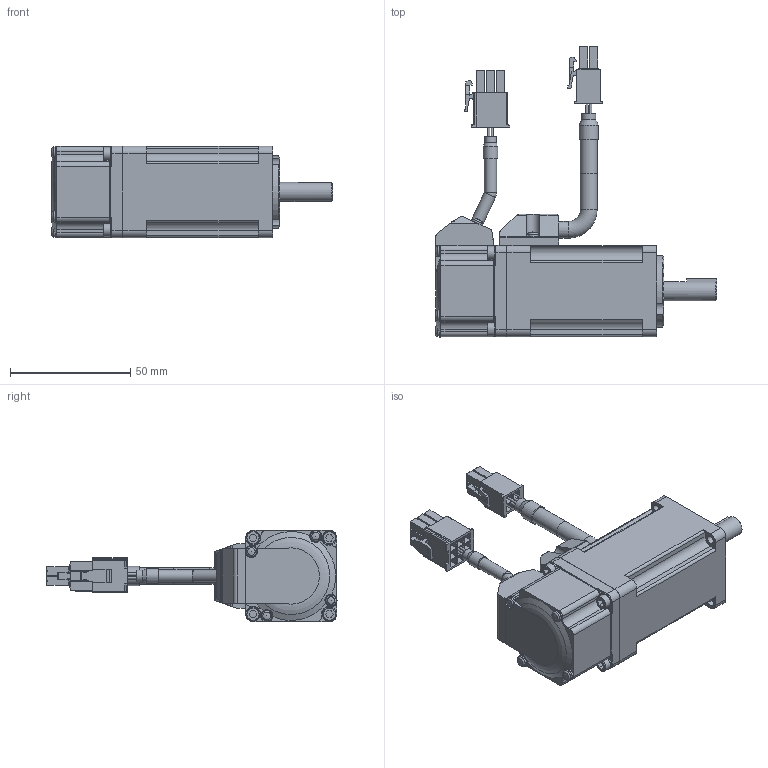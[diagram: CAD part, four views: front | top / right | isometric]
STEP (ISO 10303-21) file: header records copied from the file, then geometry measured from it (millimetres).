
FILE_DESCRIPTION( ( 'STEP AP203' ), '1' );
FILE_NAME( 'p:/temp/worker_26/temp/exporttempdir_3736_1033_JpBX4/format_0/MSMF012L1S2.stp', '2019-12-02T09:09:19', ( '' ), ( '' ), ' ', 'PARTsolutions', ' ' );
FILE_SCHEMA( ( 'CONFIG_CONTROL_DESIGN' ) );
Length unit declared in the file: millimetre
Products named in the file (8): MSMF012L1S2; _MSMF01NoWith key_b; _Cable Motor Bottom 02_CM2_MSMF; _Cable Motor Top 02_MSMF; _Motor Connector_2; _Cable Brake Top 02_CE02_MSMF; _Cable Brake Top 02_CE01_MSMF; _MHMF Connector 9 Pin_A6
Assembly tree (7 placements, depth 2):
  MSMF012L1S2
    _MSMF01NoWith key_b
    _Cable Motor Bottom 02_CM2_MSMF
    _Cable Motor Top 02_MSMF
    _Motor Connector_2
    _Cable Brake Top 02_CE02_MSMF
    _Cable Brake Top 02_CE01_MSMF
    _MHMF Connector 9 Pin_A6
Bounding box: 117.17 x 120.84 x 38.2 mm (x, y, z)
Volume: 142075.2 mm3; surface area: 32526.2 mm2
Topology: 7 solids, 7 shells, 742 faces, 1871 edges, 1220 vertices
Faces by surface type: plane 497, cylinder 194, cone 32, torus 11, sphere 6, bspline 2
Full cylindrical faces by diameter (mm): 1 x8, 1.82 x4, 2.459 x1, 2.6 x13, 3.4 x4, 4.95 x1, 5 x9, 5.1 x2, 5.5 x7, 5.997 x1, 6 x5, 7 x3, 7.999 x1, 8 x1, 8.9 x1, 10.5 x1, 17 x1, 18.72 x1
Entity records: 21776 total; most frequent: CARTESIAN_POINT 3930, DIRECTION 3659, ORIENTED_EDGE 3456, EDGE_CURVE 1728, LINE 1235, VECTOR 1235, AXIS2_PLACEMENT_3D 1212, VERTEX_POINT 1195
